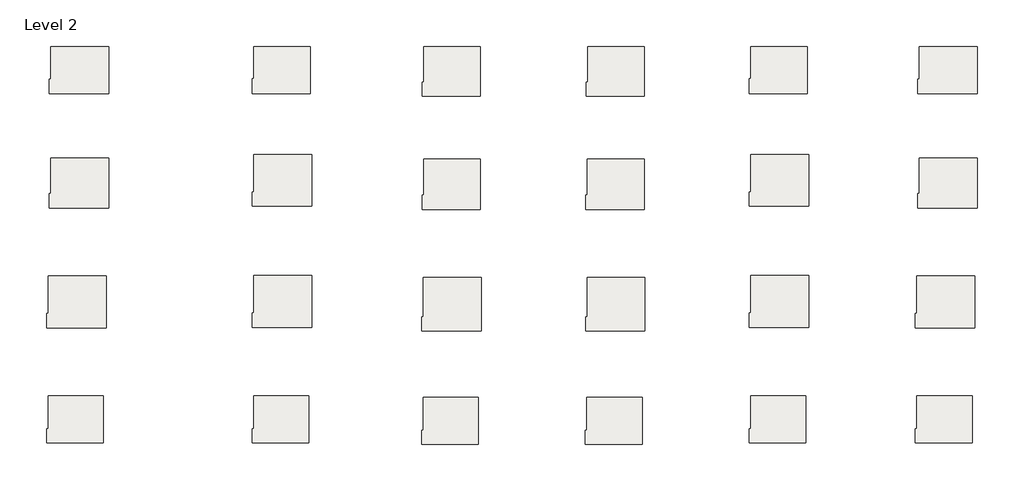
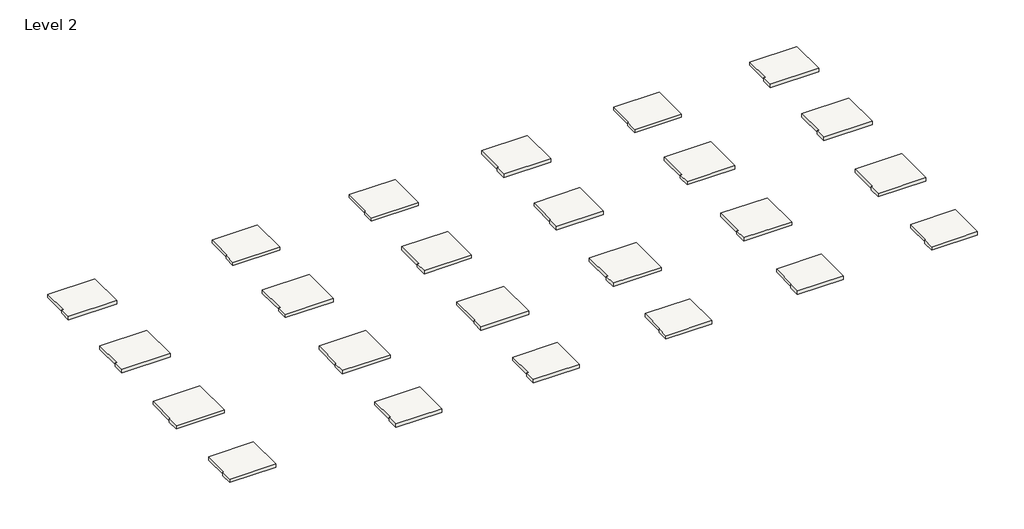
# One storey, incomplete: 24 slabs.
"""IFC4 building model written with IfcOpenShell, lengths in millimetres."""

from ifc_helpers import new_model, si_unit, frame, origin, place, context, project, spatial, polyline, outline, extrude, element, save

model = new_model("IFC4")

# Units and contexts
model_context = context("Model", 3, world=origin())
ifc_project = project(units=[si_unit("LENGTHUNIT", "METRE", prefix="MILLI")], contexts=[model_context])

# Site, building, storey
site = spatial("IfcSite", under=ifc_project)
building = spatial("IfcBuilding", under=site)
storey = spatial("IfcBuildingStorey", under=building, Name="Level 2", Elevation=3048.0)

# Slabs
placement = place(None, origin())
element("IfcSlab", 1, ObjectType="Generic - 12\"", at=placement, inside=storey, context=model_context, shape_type="SweptSolid", body=[
    extrude(outline(polyline([(21530.8630827, 6587.522839), (17466.6614578, 6587.522839), (17466.6614578, 7603.522839), (17574.6114578, 7603.522839), (17574.6114578, 9965.722839), (21530.8630827, 9965.722839), (21530.8630827, 6587.522839)])), frame((0.0, 0.0, 2740.406), z_axis=(0.0, 0.0, 1.0), x_axis=(1.0, 0.0, 0.0)), (0.0, 0.0, 1.0), 307.594),
])
element("IfcSlab", 2, ObjectType="Generic - 12\"", at=placement, inside=storey, context=model_context, shape_type="SweptSolid", body=[
    extrude(outline(polyline([(9633.3443327, 6587.522839), (5579.4614578, 6587.522839), (5579.4614578, 7603.522839), (5687.4114578, 7603.522839), (5687.4114578, 9965.722839), (9633.3443327, 9965.722839), (9633.3443327, 6587.522839)])), frame((0.0, 0.0, 2740.406), z_axis=(0.0, 0.0, 1.0), x_axis=(1.0, 0.0, 0.0)), (0.0, 0.0, 1.0), 307.594),
])
element("IfcSlab", 3, ObjectType="Generic - 12\"", at=placement, inside=storey, context=model_context, shape_type="SweptSolid", body=[
    extrude(outline(polyline([(-2089.8629358, 6472.8177722), (-6141.3645607, 6472.8177722), (-6141.3645607, 7488.8177722), (-6033.4145607, 7488.8177722), (-6033.4145607, 9851.0177722), (-2089.8629358, 9851.0177722), (-2089.8629358, 6472.8177722)])), frame((0.0, 0.0, 2740.406), z_axis=(0.0, 0.0, 1.0), x_axis=(1.0, 0.0, 0.0)), (0.0, 0.0, 1.0), 307.594),
])
element("IfcSlab", 4, ObjectType="Generic - 12\"", at=placement, inside=storey, context=model_context, shape_type="SweptSolid", body=[
    extrude(outline(polyline([(-1879.2405791, 14587.7127053), (-6127.3905791, 14587.7127053), (-6127.3905791, 15603.7127053), (-6019.4405791, 15603.7127053), (-6019.4405791, 18423.1127053), (-1879.2405791, 18423.1127053), (-1879.2405791, 14587.7127053)])), frame((0.0, 0.0, 2740.406), z_axis=(0.0, 0.0, 1.0), x_axis=(1.0, 0.0, 0.0)), (0.0, 0.0, 1.0), 307.594),
])
element("IfcSlab", 5, ObjectType="Generic - 12\"", at=placement, inside=storey, context=model_context, shape_type="SweptSolid", body=[
    extrude(outline(polyline([(-1947.8165976, 23312.2076385), (-6113.4165976, 23312.2076385), (-6113.4165976, 24328.2076385), (-6005.4665976, 24328.2076385), (-6005.4665976, 26919.0076385), (-1947.8165976, 26919.0076385), (-1947.8165976, 23312.2076385)])), frame((0.0, 0.0, 2740.406), z_axis=(0.0, 0.0, 1.0), x_axis=(1.0, 0.0, 0.0)), (0.0, 0.0, 1.0), 307.594),
])
element("IfcSlab", 6, ObjectType="Generic - 12\"", at=placement, inside=storey, context=model_context, shape_type="SweptSolid", body=[
    extrude(outline(polyline([(9841.5854393, 23541.6177722), (5593.4354393, 23541.6177722), (5593.4354393, 24557.6177722), (5701.3854393, 24557.6177722), (5701.3854393, 27250.0177722), (9841.5854393, 27250.0177722), (9841.5854393, 23541.6177722)])), frame((0.0, 0.0, 2740.406), z_axis=(0.0, 0.0, 1.0), x_axis=(1.0, 0.0, 0.0)), (0.0, 0.0, 1.0), 307.594),
])
element("IfcSlab", 7, ObjectType="Generic - 12\"", at=placement, inside=storey, context=model_context, shape_type="SweptSolid", body=[
    extrude(outline(polyline([(21917.6381748, 23413.8076385), (17644.0881748, 23413.8076385), (17644.0881748, 24429.8076385), (17752.0381748, 24429.8076385), (17752.0381748, 26995.2076385), (21917.6381748, 26995.2076385), (21917.6381748, 23413.8076385)])), frame((0.0, 0.0, 2740.406), z_axis=(0.0, 0.0, 1.0), x_axis=(1.0, 0.0, 0.0)), (0.0, 0.0, 1.0), 307.594),
])
element("IfcSlab", 8, ObjectType="Generic - 12\"", at=placement, inside=storey, context=model_context, shape_type="SweptSolid", body=[
    extrude(outline(polyline([(9841.5854393, 14854.8177722), (5593.4354393, 14854.8177722), (5593.4354393, 15896.2177722), (5701.3854393, 15896.2177722), (5701.3854393, 18563.4193971), (9841.5854393, 18563.4193971), (9841.5854393, 14854.8177722)])), frame((0.0, 0.0, 2740.406), z_axis=(0.0, 0.0, 1.0), x_axis=(1.0, 0.0, 0.0)), (0.0, 0.0, 1.0), 307.594),
])
element("IfcSlab", 9, ObjectType="Generic - 12\"", at=placement, inside=storey, context=model_context, shape_type="SweptSolid", body=[
    extrude(outline(polyline([(21728.7854393, 14829.4177722), (17480.6354393, 14829.4177722), (17480.6354393, 15870.8177722), (17588.5854393, 15870.8177722), (17588.5854393, 18537.8177722), (21728.7854393, 18537.8177722), (21728.7854393, 14829.4177722)])), frame((0.0, 0.0, 2740.406), z_axis=(0.0, 0.0, 1.0), x_axis=(1.0, 0.0, 0.0)), (0.0, 0.0, 1.0), 307.594),
])
element("IfcSlab", 10, ObjectType="Generic - 12\"", at=placement, inside=storey, context=model_context, shape_type="SweptSolid", body=[
    extrude(outline(polyline([(-1933.842616, 31427.1025717), (-6099.442616, 31427.1025717), (-6099.442616, 32443.1025717), (-5991.492616, 32443.1025717), (-5991.492616, 34983.1025717), (-1933.842616, 34983.1025717), (-1933.842616, 31427.1025717)])), frame((0.0, 0.0, 2740.406), z_axis=(0.0, 0.0, 1.0), x_axis=(1.0, 0.0, 0.0)), (0.0, 0.0, 1.0), 307.594),
])
element("IfcSlab", 11, ObjectType="Generic - 12\"", at=placement, inside=storey, context=model_context, shape_type="SweptSolid", body=[
    extrude(outline(polyline([(9717.7604393, 31593.4177722), (5593.4354393, 31593.4177722), (5593.4354393, 32660.2177722), (5701.3854393, 32660.2177722), (5701.3854393, 34983.1025717), (9717.7604393, 34983.1025717), (9717.7604393, 31593.4177722)])), frame((0.0, 0.0, 2740.406), z_axis=(0.0, 0.0, 1.0), x_axis=(1.0, 0.0, 0.0)), (0.0, 0.0, 1.0), 307.594),
])
element("IfcSlab", 12, ObjectType="Generic - 12\"", at=placement, inside=storey, context=model_context, shape_type="SweptSolid", body=[
    extrude(outline(polyline([(21917.6381748, 31618.8177722), (17644.0881748, 31618.8177722), (17644.0881748, 32634.8177722), (17752.0381748, 32634.8177722), (17752.0381748, 34983.1025717), (21917.6381748, 34983.1025717), (21917.6381748, 31618.8177722)])), frame((0.0, 0.0, 2740.406), z_axis=(0.0, 0.0, 1.0), x_axis=(1.0, 0.0, 0.0)), (0.0, 0.0, 1.0), 307.594),
])
element("IfcSlab", 13, ObjectType="Generic - 12\"", at=placement, inside=storey, context=model_context, shape_type="SweptSolid", body=[
    extrude(outline(polyline([(-13810.6889542, 6472.8177722), (-17862.1905791, 6472.8177722), (-17862.1905791, 7488.8177722), (-17754.2405791, 7488.8177722), (-17754.2405791, 9851.0177722), (-13810.6889542, 9851.0177722), (-13810.6889542, 6472.8177722)])), frame((0.0, 0.0, 2740.406), z_axis=(0.0, 0.0, 1.0), x_axis=(1.0, 0.0, 0.0)), (0.0, 0.0, 1.0), 307.594),
])
element("IfcSlab", 14, ObjectType="Generic - 12\"", at=placement, inside=storey, context=model_context, shape_type="SweptSolid", body=[
    extrude(outline(polyline([(-13600.0665976, 14587.7127053), (-17848.2165976, 14587.7127053), (-17848.2165976, 15603.7127053), (-17740.2665976, 15603.7127053), (-17740.2665976, 18423.1127053), (-13600.0665976, 18423.1127053), (-13600.0665976, 14587.7127053)])), frame((0.0, 0.0, 2740.406), z_axis=(0.0, 0.0, 1.0), x_axis=(1.0, 0.0, 0.0)), (0.0, 0.0, 1.0), 307.594),
])
element("IfcSlab", 15, ObjectType="Generic - 12\"", at=placement, inside=storey, context=model_context, shape_type="SweptSolid", body=[
    extrude(outline(polyline([(-13668.642616, 23312.2076385), (-17834.242616, 23312.2076385), (-17834.242616, 24328.2076385), (-17726.292616, 24328.2076385), (-17726.292616, 26919.0076385), (-13668.642616, 26919.0076385), (-13668.642616, 23312.2076385)])), frame((0.0, 0.0, 2740.406), z_axis=(0.0, 0.0, 1.0), x_axis=(1.0, 0.0, 0.0)), (0.0, 0.0, 1.0), 307.594),
])
element("IfcSlab", 16, ObjectType="Generic - 12\"", at=placement, inside=storey, context=model_context, shape_type="SweptSolid", body=[
    extrude(outline(polyline([(-13654.6686345, 31427.1025717), (-17820.2686345, 31427.1025717), (-17820.2686345, 32443.1025717), (-17712.3186345, 32443.1025717), (-17712.3186345, 34983.1025717), (-13654.6686345, 34983.1025717), (-13654.6686345, 31427.1025717)])), frame((0.0, 0.0, 2740.406), z_axis=(0.0, 0.0, 1.0), x_axis=(1.0, 0.0, 0.0)), (0.0, 0.0, 1.0), 307.594),
])
element("IfcSlab", 17, ObjectType="Generic - 12\"", at=placement, inside=storey, context=model_context, shape_type="SweptSolid", body=[
    extrude(outline(polyline([(-25938.9624766, 6587.522839), (-29992.8453515, 6587.522839), (-29992.8453515, 7603.522839), (-29884.8953515, 7603.522839), (-29884.8953515, 9965.722839), (-25938.9624766, 9965.722839), (-25938.9624766, 6587.522839)])), frame((0.0, 0.0, 2740.406), z_axis=(0.0, 0.0, 1.0), x_axis=(1.0, 0.0, 0.0)), (0.0, 0.0, 1.0), 307.594),
])
element("IfcSlab", 18, ObjectType="Generic - 12\"", at=placement, inside=storey, context=model_context, shape_type="SweptSolid", body=[
    extrude(outline(polyline([(-25730.72137, 23541.6177722), (-29978.87137, 23541.6177722), (-29978.87137, 24557.6177722), (-29870.92137, 24557.6177722), (-29870.92137, 27250.0177722), (-25730.72137, 27250.0177722), (-25730.72137, 23541.6177722)])), frame((0.0, 0.0, 2740.406), z_axis=(0.0, 0.0, 1.0), x_axis=(1.0, 0.0, 0.0)), (0.0, 0.0, 1.0), 307.594),
])
element("IfcSlab", 19, ObjectType="Generic - 12\"", at=placement, inside=storey, context=model_context, shape_type="SweptSolid", body=[
    extrude(outline(polyline([(-25730.72137, 14854.8177722), (-29978.87137, 14854.8177722), (-29978.87137, 15896.2177722), (-29870.92137, 15896.2177722), (-29870.92137, 18563.4193971), (-25730.72137, 18563.4193971), (-25730.72137, 14854.8177722)])), frame((0.0, 0.0, 2740.406), z_axis=(0.0, 0.0, 1.0), x_axis=(1.0, 0.0, 0.0)), (0.0, 0.0, 1.0), 307.594),
])
element("IfcSlab", 20, ObjectType="Generic - 12\"", at=placement, inside=storey, context=model_context, shape_type="SweptSolid", body=[
    extrude(outline(polyline([(-25854.54637, 31593.4177722), (-29978.87137, 31593.4177722), (-29978.87137, 32660.2177722), (-29870.92137, 32660.2177722), (-29870.92137, 34983.1025717), (-25854.54637, 34983.1025717), (-25854.54637, 31593.4177722)])), frame((0.0, 0.0, 2740.406), z_axis=(0.0, 0.0, 1.0), x_axis=(1.0, 0.0, 0.0)), (0.0, 0.0, 1.0), 307.594),
])
element("IfcSlab", 21, ObjectType="Generic - 12\"", at=placement, inside=storey, context=model_context, shape_type="SweptSolid", body=[
    extrude(outline(polyline([(-40648.3369173, 6587.522839), (-44712.5385422, 6587.522839), (-44712.5385422, 7603.522839), (-44604.5885422, 7603.522839), (-44604.5885422, 9965.722839), (-40648.3369173, 9965.722839), (-40648.3369173, 6587.522839)])), frame((0.0, 0.0, 2740.406), z_axis=(0.0, 0.0, 1.0), x_axis=(1.0, 0.0, 0.0)), (0.0, 0.0, 1.0), 307.594),
])
element("IfcSlab", 22, ObjectType="Generic - 12\"", at=placement, inside=storey, context=model_context, shape_type="SweptSolid", body=[
    extrude(outline(polyline([(-40261.5618252, 23413.8076385), (-44535.1118252, 23413.8076385), (-44535.1118252, 24429.8076385), (-44427.1618252, 24429.8076385), (-44427.1618252, 26995.2076385), (-40261.5618252, 26995.2076385), (-40261.5618252, 23413.8076385)])), frame((0.0, 0.0, 2740.406), z_axis=(0.0, 0.0, 1.0), x_axis=(1.0, 0.0, 0.0)), (0.0, 0.0, 1.0), 307.594),
])
element("IfcSlab", 23, ObjectType="Generic - 12\"", at=placement, inside=storey, context=model_context, shape_type="SweptSolid", body=[
    extrude(outline(polyline([(-40450.4145607, 14829.4177722), (-44698.5645607, 14829.4177722), (-44698.5645607, 15870.8177722), (-44590.6145607, 15870.8177722), (-44590.6145607, 18537.8177722), (-40450.4145607, 18537.8177722), (-40450.4145607, 14829.4177722)])), frame((0.0, 0.0, 2740.406), z_axis=(0.0, 0.0, 1.0), x_axis=(1.0, 0.0, 0.0)), (0.0, 0.0, 1.0), 307.594),
])
element("IfcSlab", 24, ObjectType="Generic - 12\"", at=placement, inside=storey, context=model_context, shape_type="SweptSolid", body=[
    extrude(outline(polyline([(-40261.5618252, 31618.8177722), (-44535.1118252, 31618.8177722), (-44535.1118252, 32634.8177722), (-44427.1618252, 32634.8177722), (-44427.1618252, 34983.1025717), (-40261.5618252, 34983.1025717), (-40261.5618252, 31618.8177722)])), frame((0.0, 0.0, 2740.406), z_axis=(0.0, 0.0, 1.0), x_axis=(1.0, 0.0, 0.0)), (0.0, 0.0, 1.0), 307.594),
])

save(model, "model.ifc")
